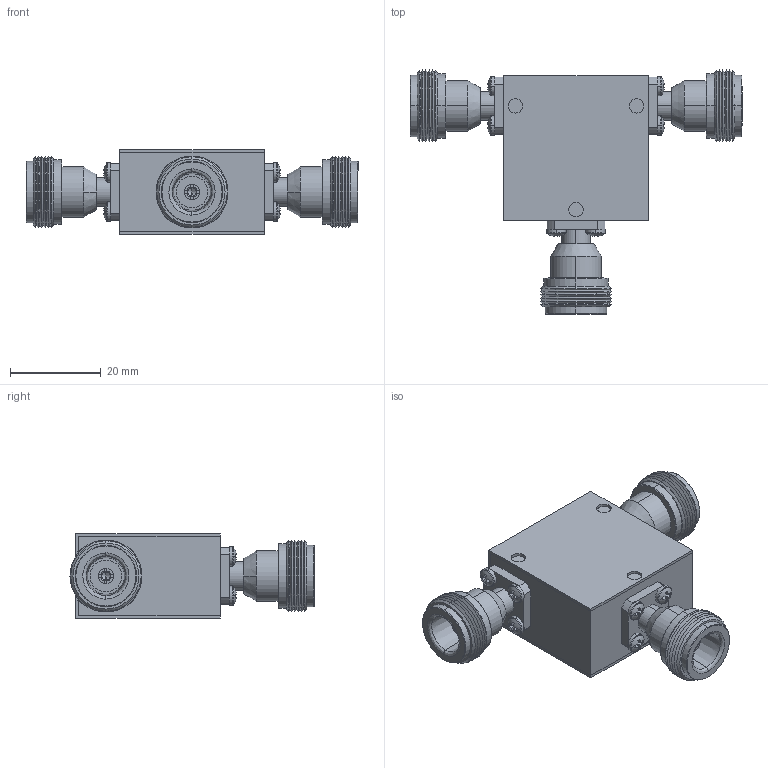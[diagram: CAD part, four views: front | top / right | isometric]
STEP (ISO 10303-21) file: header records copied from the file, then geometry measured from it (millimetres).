
FILE_DESCRIPTION (( 'STEP AP214' ), '1' );
FILE_NAME ('Package 8 Circ FFF Type-N.step', '2021-12-01T21:02:03', ( '' ), ( '' ), 'SwSTEP 2.0', 'SolidWorks 2016', '' );
FILE_SCHEMA (( 'AUTOMOTIVE_DESIGN' ));
Length unit declared in the file: inch
Products named in the file (5): Package Size 8; Package 8 Circ FFF Type-N; Package 8; Type-N Female 0.500 flange; pan cross head_ai_CR-PHMS 0.086-56x0.125x0.125-N
Assembly tree (17 placements, depth 2):
  Package 8 Circ FFF Type-N
    Package Size 8
    Package 8
    Type-N Female 0.500 flange  x3
    pan cross head_ai_CR-PHMS 0.086-56x0.125x0.125-N  x12
Bounding box: 73.1 x 53.74 x 18.54 mm (x, y, z)
Volume: 24387.7 mm3; surface area: 15979 mm2
Topology: 17 solids, 17 shells, 676 faces, 1539 edges, 939 vertices
Faces by surface type: plane 307, cylinder 183, cone 132, torus 24, sphere 24, bspline 6
Entity records: 5451 total; most frequent: DIRECTION 979, CARTESIAN_POINT 967, ORIENTED_EDGE 818, EDGE_CURVE 409, AXIS2_PLACEMENT_3D 395, VERTEX_POINT 255, EDGE_LOOP 208, CIRCLE 202
